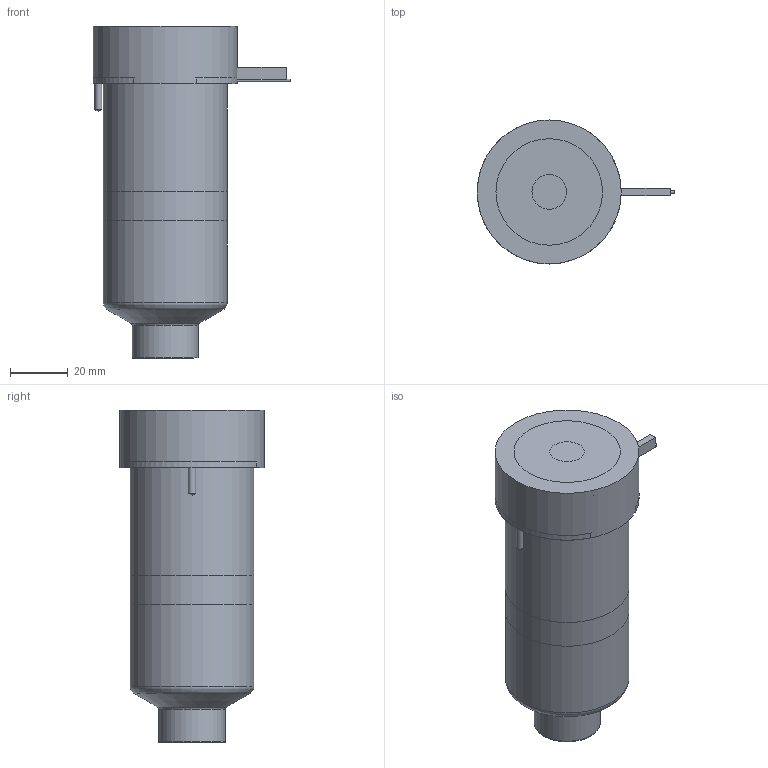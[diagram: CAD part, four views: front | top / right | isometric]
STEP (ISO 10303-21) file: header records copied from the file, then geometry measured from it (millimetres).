
FILE_DESCRIPTION(/* description */ (''),/* implementation_level */ '2;1');
FILE_NAME(/* name */ 'BXTVBE-BXIVBE-BXOVBE27095_200C_b',/* time_stamp */ '2007-01-18T10:02:48+13:00',/* author */ (''),/* organization */ (''),/* preprocessor_version */ 'ST-DEVELOPER v9',/* originating_system */ 'UGS - NX 4.0',/* authorisation */ '');
FILE_SCHEMA (('CONFIG_CONTROL_DESIGN'));
Length unit declared in the file: millimetre
Products named in the file (1): BXTVBE-BXIVBE-BXOVBE27095_200C_b
Bounding box: 68.6 x 50 x 115.25 mm (x, y, z)
Volume: 306248.6 mm3; surface area: 41470 mm2
Topology: 6 solids, 6 shells, 75 faces, 150 edges, 97 vertices
Faces by surface type: plane 33, cylinder 23, cone 10, torus 8, bspline 1
Full cylindrical faces by diameter (mm): 1 x3, 2.5 x2, 5 x1, 12 x1, 22.61 x1, 23.01 x2, 27.5 x1, 38.1 x1, 43 x2, 50 x1
Entity records: 2007 total; most frequent: CARTESIAN_POINT 484, DIRECTION 316, ORIENTED_EDGE 232, AXIS2_PLACEMENT_3D 139, EDGE_CURVE 116, EDGE_LOOP 112, VERTEX_POINT 91, ADVANCED_FACE 75
